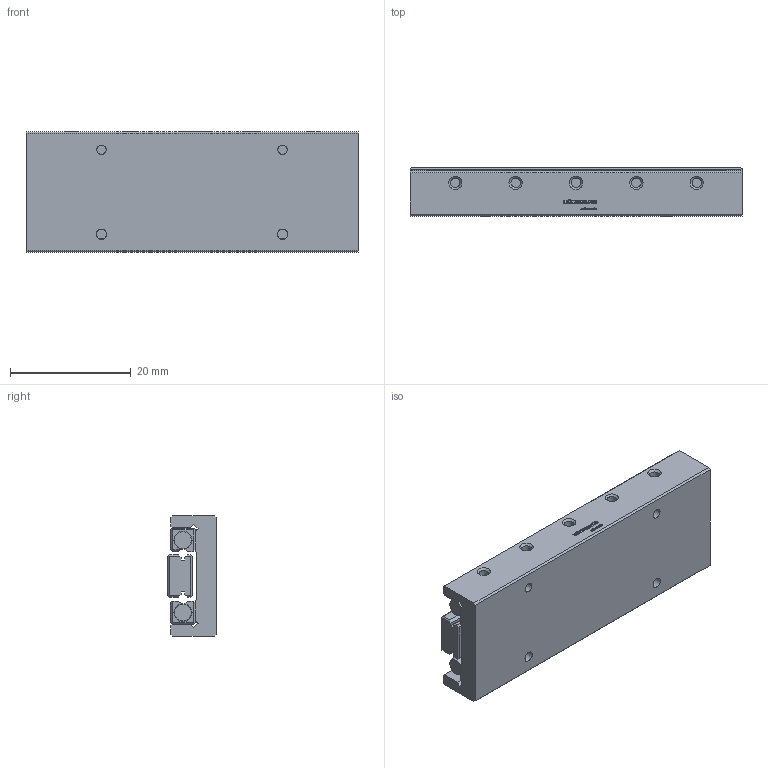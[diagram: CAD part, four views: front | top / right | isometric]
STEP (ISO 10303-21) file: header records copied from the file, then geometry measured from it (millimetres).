
FILE_DESCRIPTION(/* description */ ('STEP AP214'),/* implementation_level */ '2;1');
FILE_NAME(/* name */ 'ND 1-55.32(0)',/* time_stamp */ '2025-04-22T17:42:21+02:00',/* author */ ('License CC BY-ND 4.0'),/* organization */ ('CADENAS'),/* preprocessor_version */ 'ST-DEVELOPER v19.3',/* originating_system */ 'PARTsolutions',/* authorisation */ ' ');
FILE_SCHEMA (('AUTOMOTIVE_DESIGN {1 0 10303 214 3 1 1}'));
Length unit declared in the file: millimetre
Products named in the file (4): ND 1-55.32(0); ND 1-55.32+SQ+OF_(0)_1; ND 1-55.32+SQ+OF_(0)_2; ND 1-55.32+SQ+OF_(0)_3
Assembly tree (4 placements, depth 2):
  ND 1-55.32(0)
    ND 1-55.32+SQ+OF_(0)_1
    ND 1-55.32+SQ+OF_(0)_2
    ND 1-55.32+SQ+OF_(0)_3  x2
Bounding box: 55 x 8 x 20 mm (x, y, z)
Volume: 7238.7 mm3; surface area: 7216.5 mm2
Topology: 4 solids, 4 shells, 662 faces, 1829 edges, 1206 vertices
Faces by surface type: cylinder 332, plane 297, cone 29, torus 4
Full cylindrical faces by diameter (mm): 1.49 x4, 1.567 x7, 1.57 x10, 1.713 x2, 2.113 x5, 3 x10
Entity records: 19598 total; most frequent: DIRECTION 3539, CARTESIAN_POINT 3366, ORIENTED_EDGE 3278, EDGE_CURVE 1639, AXIS2_PLACEMENT_3D 1286, VERTEX_POINT 1113, LINE 967, VECTOR 967
